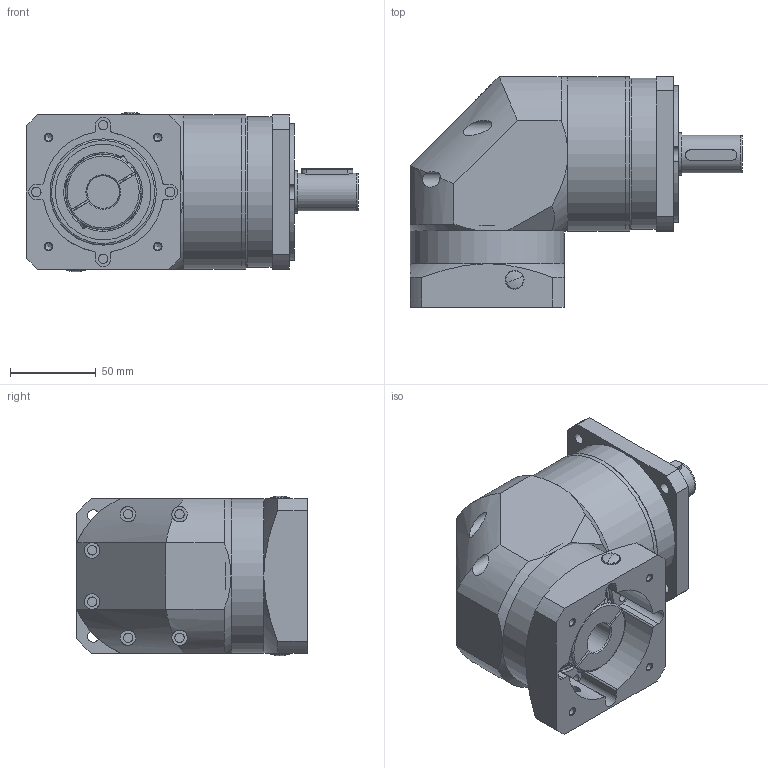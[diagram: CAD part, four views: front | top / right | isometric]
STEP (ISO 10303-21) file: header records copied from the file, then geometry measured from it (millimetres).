
FILE_DESCRIPTION(/* description */ (''),/* implementation_level */ '2;1');
FILE_NAME(/* name */ 'ZPF-090-L1(19-70-90-M6）.stp',/* time_stamp */ '2023-12-12T19:41:34+08:00',/* author */ (''),/* organization */ (''),/* preprocessor_version */ 'ST-DEVELOPER v16',/* originating_system */ 'SIEMENS PLM Software NX 10.0',/* authorisation */ '');
FILE_SCHEMA (('CONFIG_CONTROL_DESIGN'));
Length unit declared in the file: millimetre
Products named in the file (1): ZPF-090-L1_19-70-90-M6）_stp
Bounding box: 193.6 x 134.5 x 93 mm (x, y, z)
Volume: 977944.2 mm3; surface area: 208768.4 mm2
Topology: 23 solids, 23 shells, 915 faces, 2579 edges, 1714 vertices
Faces by surface type: cylinder 289, plane 273, sphere 160, torus 102, cone 57, bspline 34
Full cylindrical faces by diameter (mm): 4.2 x12, 5 x5, 5.5 x14, 6.5 x4, 9 x11, 10 x2, 19 x1, 19.9 x1, 22 x1, 25 x1, 28 x1, 35 x1, 39 x1, 48 x1, 52 x2, 55 x2, 62 x2, 65 x1, 67 x1, 68 x4, 88 x1, 90 x3
Entity records: 36300 total; most frequent: CARTESIAN_POINT 13487, ORIENTED_EDGE 4828, DIRECTION 4578, EDGE_CURVE 2414, AXIS2_PLACEMENT_3D 2005, VERTEX_POINT 1674, EDGE_LOOP 1175, CIRCLE 1116
